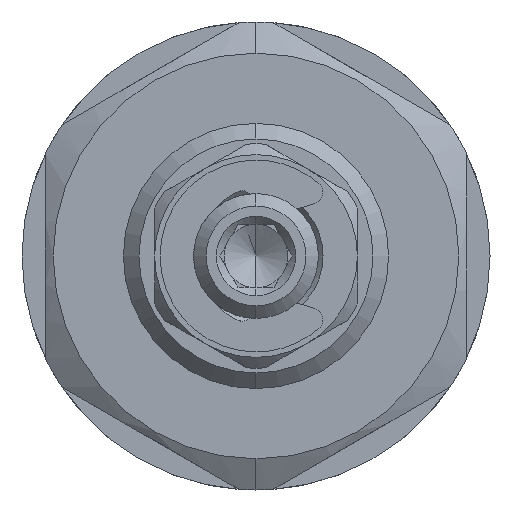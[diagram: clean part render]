
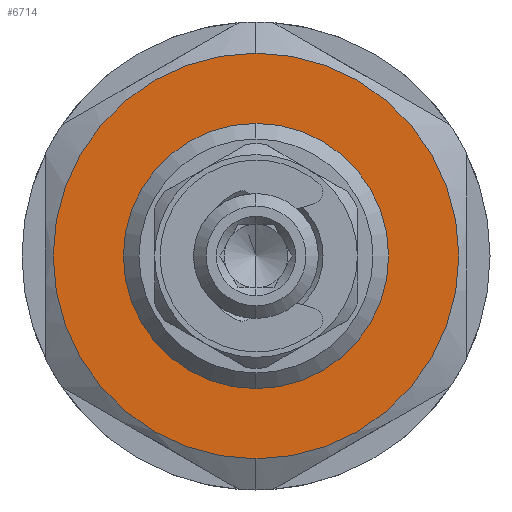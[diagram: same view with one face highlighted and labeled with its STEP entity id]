
A CAD part, left-side view. The second image highlights one B-rep face of the part: STEP entity #6714.
In plain terms, the highlighted planar face has unit normal (-1, 0, 0).
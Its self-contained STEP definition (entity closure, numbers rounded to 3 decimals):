
#3 = CARTESIAN_POINT ( 'NONE',  ( 13., 0., 0. ) ) ;
#145 = CIRCLE ( 'NONE', #6068, 13. ) ;
#950 = DIRECTION ( 'NONE',  ( 0., 0., 1. ) ) ;
#962 = AXIS2_PLACEMENT_3D ( 'NONE', #971, #6707, #6817 ) ;
#971 = CARTESIAN_POINT ( 'NONE',  ( 13., 8.5, 0. ) ) ;
#1142 = CARTESIAN_POINT ( 'NONE',  ( 13., 0., -8.5 ) ) ;
#1555 = CIRCLE ( 'NONE', #7818, 13. ) ;
#1565 = VERTEX_POINT ( 'NONE', #3829 ) ;
#1702 = ORIENTED_EDGE ( 'NONE', *, *, #10852, .T. ) ;
#1718 = ORIENTED_EDGE ( 'NONE', *, *, #10955, .F. ) ;
#2655 = CIRCLE ( 'NONE', #3769, 8.5 ) ;
#2765 = DIRECTION ( 'NONE',  ( -1., 0., 0. ) ) ;
#2906 = PLANE ( 'NONE',  #962 ) ;
#2972 = CARTESIAN_POINT ( 'NONE',  ( 13., 0., 0. ) ) ;
#3769 = AXIS2_PLACEMENT_3D ( 'NONE', #3, #6876, #950 ) ;
#3829 = CARTESIAN_POINT ( 'NONE',  ( 13., 0., -13. ) ) ;
#3995 = DIRECTION ( 'NONE',  ( 0., 0., 1. ) ) ;
#4429 = AXIS2_PLACEMENT_3D ( 'NONE', #2972, #9954, #3995 ) ;
#4503 = CIRCLE ( 'NONE', #4429, 8.5 ) ;
#4689 = ORIENTED_EDGE ( 'NONE', *, *, #10204, .F. ) ;
#5266 = DIRECTION ( 'NONE',  ( -1., 0., 0. ) ) ;
#5438 = VERTEX_POINT ( 'NONE', #8826 ) ;
#5965 = VERTEX_POINT ( 'NONE', #1142 ) ;
#6068 = AXIS2_PLACEMENT_3D ( 'NONE', #8753, #2765, #9756 ) ;
#6528 = ORIENTED_EDGE ( 'NONE', *, *, #10296, .T. ) ;
#6707 = DIRECTION ( 'NONE',  ( -1., 0., 0. ) ) ;
#6714 = ADVANCED_FACE ( 'NONE', ( #10465, #10452 ), #2906, .T. ) ;
#6817 = DIRECTION ( 'NONE',  ( 0., 0., 1. ) ) ;
#6876 = DIRECTION ( 'NONE',  ( -1., 0., 0. ) ) ;
#7818 = AXIS2_PLACEMENT_3D ( 'NONE', #11127, #5266, #11924 ) ;
#7875 = EDGE_LOOP ( 'NONE', ( #1718, #4689 ) ) ;
#8243 = VERTEX_POINT ( 'NONE', #12397 ) ;
#8478 = EDGE_LOOP ( 'NONE', ( #6528, #1702 ) ) ;
#8753 = CARTESIAN_POINT ( 'NONE',  ( 13., 0., 0. ) ) ;
#8826 = CARTESIAN_POINT ( 'NONE',  ( 13., 0., 13. ) ) ;
#9756 = DIRECTION ( 'NONE',  ( 0., 0., 1. ) ) ;
#9954 = DIRECTION ( 'NONE',  ( -1., 0., 0. ) ) ;
#10204 = EDGE_CURVE ( 'NONE', #5965, #8243, #2655, .T. ) ;
#10296 = EDGE_CURVE ( 'NONE', #1565, #5438, #1555, .T. ) ;
#10452 = FACE_BOUND ( 'NONE', #7875, .T. ) ;
#10465 = FACE_OUTER_BOUND ( 'NONE', #8478, .T. ) ;
#10852 = EDGE_CURVE ( 'NONE', #5438, #1565, #145, .T. ) ;
#10955 = EDGE_CURVE ( 'NONE', #8243, #5965, #4503, .T. ) ;
#11127 = CARTESIAN_POINT ( 'NONE',  ( 13., 0., 0. ) ) ;
#11924 = DIRECTION ( 'NONE',  ( 0., 0., 1. ) ) ;
#12397 = CARTESIAN_POINT ( 'NONE',  ( 13., 0., 8.5 ) ) ;
